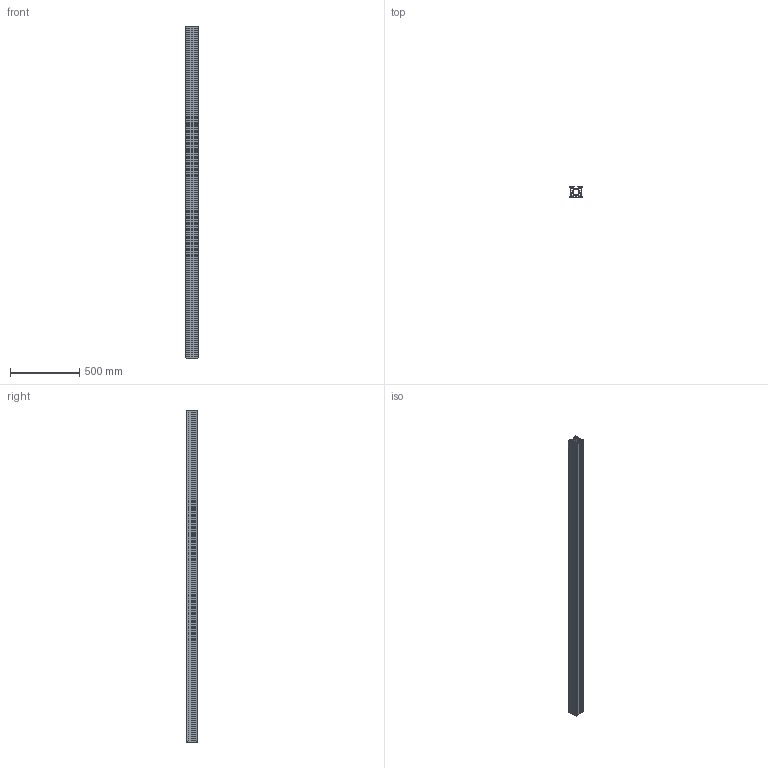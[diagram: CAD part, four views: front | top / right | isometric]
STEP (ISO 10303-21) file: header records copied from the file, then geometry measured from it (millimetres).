
FILE_DESCRIPTION (( 'STEP AP203' ), '1' );
FILE_NAME ('_-_MLF 4 2398 mm lang.step', '2005-09-01T12:46:29', ( ' ' ), ( ' ' ), 'SwSTEP 2.0', 'SolidWorks 2005187', '' );
FILE_SCHEMA (( 'CONFIG_CONTROL_DESIGN' ));
Length unit declared in the file: millimetre
Products named in the file (1): _-_MLF 4  2398 mm lang
Bounding box: 87.58 x 80 x 2398 mm (x, y, z)
Volume: 5525232.1 mm3; surface area: 2962878.3 mm2
Topology: 1 solids, 1 shells, 248 faces, 762 edges, 500 vertices
Faces by surface type: plane 174, cylinder 74
Entity records: 8575 total; most frequent: ORIENTED_EDGE 1524, CARTESIAN_POINT 1511, DIRECTION 1408, EDGE_CURVE 762, VECTOR 614, LINE 614, VERTEX_POINT 500, AXIS2_PLACEMENT_3D 397
